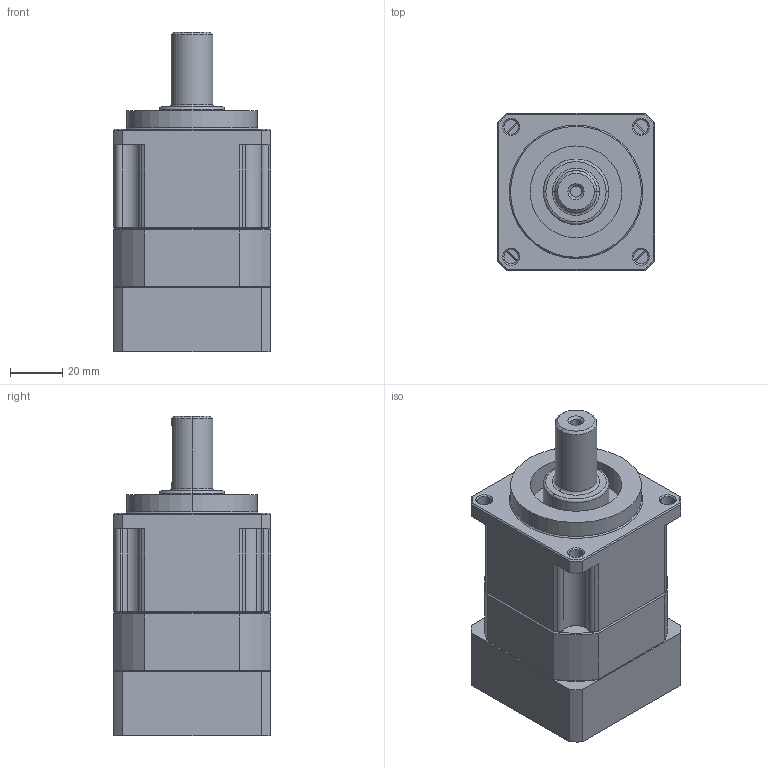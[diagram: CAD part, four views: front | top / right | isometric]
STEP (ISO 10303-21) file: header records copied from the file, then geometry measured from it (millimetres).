
FILE_DESCRIPTION (( 'STEP AP214' ), '1' );
FILE_NAME ('PAB-060-S1-S2-P2-14-50-70-M5.STEP', '2021-05-14T02:05:27', ( '微软用户' ), ( '微软中国' ), 'SwSTEP 2.0', 'SolidWorks 2014', '' );
FILE_SCHEMA (( 'AUTOMOTIVE_DESIGN' ));
Length unit declared in the file: millimetre
Products named in the file (2): PAB-060-S1-S2-P2-14-50-70-M5
Bounding box: 60 x 60 x 122 mm (x, y, z)
Volume: 271914.2 mm3; surface area: 38645.4 mm2
Topology: 1 solids, 1 shells, 185 faces, 425 edges, 256 vertices
Faces by surface type: cylinder 72, plane 59, cone 50, torus 4
Entity records: 5360 total; most frequent: CARTESIAN_POINT 1027, DIRECTION 967, ORIENTED_EDGE 850, EDGE_CURVE 425, AXIS2_PLACEMENT_3D 390, VERTEX_POINT 256, EDGE_LOOP 207, CIRCLE 203
